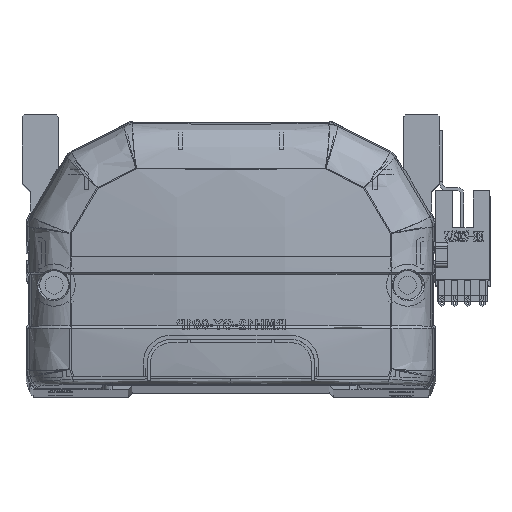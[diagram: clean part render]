
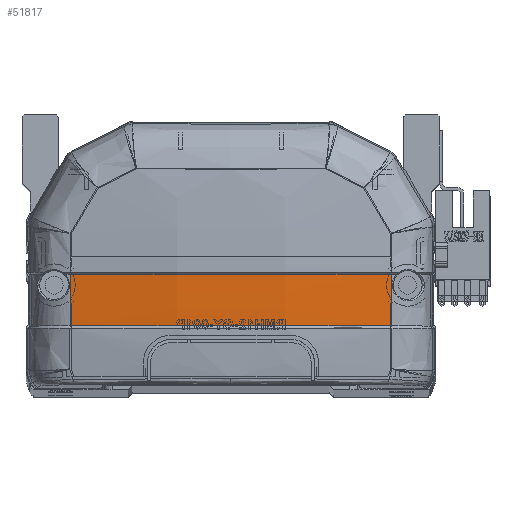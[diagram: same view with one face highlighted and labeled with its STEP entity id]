
A CAD part, top view. The second image highlights one B-rep face of the part: STEP entity #51817.
In plain terms, the highlighted free-form (B-spline) face has degree [3, 3] with [4, 4] control points.
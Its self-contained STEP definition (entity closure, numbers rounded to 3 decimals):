
#364 = ORIENTED_EDGE ( 'NONE', *, *, #5508, .F. ) ;
#677 = CARTESIAN_POINT ( 'NONE',  ( -39.973, 20.118, -6.142 ) ) ;
#5251 = CARTESIAN_POINT ( 'NONE',  ( -39.966, 24.412, -6.306 ) ) ;
#5508 = EDGE_CURVE ( 'NONE', #21456, #58904, #45954, .T. ) ;
#6280 = CARTESIAN_POINT ( 'NONE',  ( -39.985, 15.83, -5.879 ) ) ;
#7498 = CARTESIAN_POINT ( 'NONE',  ( -26.748, 28.706, -8.432 ) ) ;
#7749 = CARTESIAN_POINT ( 'NONE',  ( -40.461, 15.757, -5.8 ) ) ;
#8327 = CARTESIAN_POINT ( 'NONE',  ( 40.461, 28.832, -6.296 ) ) ;
#8464 = CARTESIAN_POINT ( 'NONE',  ( 39.973, 20.12, -6.142 ) ) ;
#11665 = CARTESIAN_POINT ( 'NONE',  ( 13.375, 28.707, -9.468 ) ) ;
#11698 = CARTESIAN_POINT ( 'NONE',  ( -13.384, 15.83, -8.724 ) ) ;
#13542 = VERTEX_POINT ( 'NONE', #22558 ) ;
#15285 = EDGE_CURVE ( 'NONE', #43025, #13542, #32889, .T. ) ;
#16055 = EDGE_CURVE ( 'NONE', #43025, #58904, #44918, .T. ) ;
#16866 = B_SPLINE_CURVE_WITH_KNOTS ( 'NONE', 3,
 ( #24441, #5251, #677, #57114 ),
 .UNSPECIFIED., .F., .F.,
 ( 4, 4 ),
 ( 0., 1. ),
 .UNSPECIFIED. ) ;
#17332 = CARTESIAN_POINT ( 'NONE',  ( -13.598, 24.342, -10.47 ) ) ;
#17733 = CARTESIAN_POINT ( 'NONE',  ( 13.598, 28.769, -10.535 ) ) ;
#18130 = CARTESIAN_POINT ( 'NONE',  ( -13.598, 15.499, -10.032 ) ) ;
#21417 = ORIENTED_EDGE ( 'NONE', *, *, #26166, .T. ) ;
#21454 = CARTESIAN_POINT ( 'NONE',  ( 39.963, 28.706, -6.372 ) ) ;
#21456 = VERTEX_POINT ( 'NONE', #56653 ) ;
#22459 = CARTESIAN_POINT ( 'NONE',  ( 39.963, 28.706, -6.372 ) ) ;
#22522 = CARTESIAN_POINT ( 'NONE',  ( 13.598, 15.499, -10.032 ) ) ;
#22558 = CARTESIAN_POINT ( 'NONE',  ( -39.985, 15.83, -5.879 ) ) ;
#22739 = CARTESIAN_POINT ( 'NONE',  ( 13.598, 19.918, -10.302 ) ) ;
#24441 = CARTESIAN_POINT ( 'NONE',  ( -39.963, 28.706, -6.372 ) ) ;
#25870 = CARTESIAN_POINT ( 'NONE',  ( 39.985, 15.83, -5.879 ) ) ;
#26069 = CARTESIAN_POINT ( 'NONE',  ( -36.679, 15.83, -6.395 ) ) ;
#26166 = EDGE_CURVE ( 'NONE', #21456, #13542, #16866, .T. ) ;
#27086 = FACE_OUTER_BOUND ( 'NONE', #31641, .T. ) ;
#30994 = CARTESIAN_POINT ( 'NONE',  ( 26.749, 28.706, -8.432 ) ) ;
#31199 = CARTESIAN_POINT ( 'NONE',  ( -13.373, 28.707, -9.468 ) ) ;
#31641 = EDGE_LOOP ( 'NONE', ( #57822, #364, #21417, #44639 ) ) ;
#31864 = CARTESIAN_POINT ( 'NONE',  ( -40.461, 28.832, -6.296 ) ) ;
#32252 = CARTESIAN_POINT ( 'NONE',  ( -13.598, 28.769, -10.535 ) ) ;
#32889 = B_SPLINE_CURVE_WITH_KNOTS ( 'NONE', 3,
 ( #25870, #34754, #39730, #59166, #11698, #49377, #54608, #44953, #26069, #6280 ),
 .UNSPECIFIED., .F., .F.,
 ( 4, 2, 2, 2, 4 ),
 ( 0., 0.04, 0.06, 0.07, 0.08 ),
 .UNSPECIFIED. ) ;
#34754 = CARTESIAN_POINT ( 'NONE',  ( 26.761, 15.83, -7.945 ) ) ;
#39730 = CARTESIAN_POINT ( 'NONE',  ( 13.38, 15.83, -8.984 ) ) ;
#40317 = CARTESIAN_POINT ( 'NONE',  ( -39.963, 28.706, -6.372 ) ) ;
#40981 = CARTESIAN_POINT ( 'NONE',  ( -13.598, 19.918, -10.302 ) ) ;
#43025 = VERTEX_POINT ( 'NONE', #51226 ) ;
#44639 = ORIENTED_EDGE ( 'NONE', *, *, #15285, .F. ) ;
#44918 = B_SPLINE_CURVE_WITH_KNOTS ( 'NONE', 3,
 ( #55770, #8464, #55568, #22459 ),
 .UNSPECIFIED., .F., .F.,
 ( 4, 4 ),
 ( 0., 1. ),
 .UNSPECIFIED. ) ;
#44953 = CARTESIAN_POINT ( 'NONE',  ( -33.365, 15.83, -6.848 ) ) ;
#45954 = B_SPLINE_CURVE_WITH_KNOTS ( 'NONE', 3,
 ( #40317, #7498, #31199, #11665, #30994, #21454 ),
 .UNSPECIFIED., .F., .F.,
 ( 4, 2, 4 ),
 ( 0., 0.5, 1. ),
 .UNSPECIFIED. ) ;
#46200 = CARTESIAN_POINT ( 'NONE',  ( 40.461, 15.757, -5.8 ) ) ;
#49377 = CARTESIAN_POINT ( 'NONE',  ( -23.389, 15.83, -7.947 ) ) ;
#49478 = CARTESIAN_POINT ( 'NONE',  ( 39.963, 28.706, -6.372 ) ) ;
#51226 = CARTESIAN_POINT ( 'NONE',  ( 39.985, 15.83, -5.879 ) ) ;
#51251 = CARTESIAN_POINT ( 'NONE',  ( 40.461, 24.47, -6.231 ) ) ;
#51817 = ADVANCED_FACE ( 'NONE', ( #27086 ), #57013, .F. ) ;
#54608 = CARTESIAN_POINT ( 'NONE',  ( -26.721, 15.83, -7.624 ) ) ;
#55226 = CARTESIAN_POINT ( 'NONE',  ( 13.598, 24.342, -10.47 ) ) ;
#55568 = CARTESIAN_POINT ( 'NONE',  ( 39.966, 24.413, -6.306 ) ) ;
#55624 = CARTESIAN_POINT ( 'NONE',  ( 40.461, 20.111, -6.066 ) ) ;
#55770 = CARTESIAN_POINT ( 'NONE',  ( 39.985, 15.83, -5.879 ) ) ;
#55837 = CARTESIAN_POINT ( 'NONE',  ( -40.461, 20.111, -6.066 ) ) ;
#56653 = CARTESIAN_POINT ( 'NONE',  ( -39.963, 28.706, -6.372 ) ) ;
#57013 =( BOUNDED_SURFACE ( )  B_SPLINE_SURFACE ( 3, 3, ( 
 ( #46200, #55624, #51251, #8327 ),
 ( #22522, #22739, #55226, #17733 ),
 ( #18130, #40981, #17332, #32252 ),
 ( #7749, #55837, #60401, #31864 ) ),
 .UNSPECIFIED., .F., .F., .F. ) 
 B_SPLINE_SURFACE_WITH_KNOTS ( ( 4, 4 ),
 ( 4, 4 ),
 ( 0., 1. ),
 ( 0., 1. ),
 .UNSPECIFIED. ) 
 GEOMETRIC_REPRESENTATION_ITEM ( )  RATIONAL_B_SPLINE_SURFACE ( (
 ( 1., 1., 1., 1.),
 ( 0.992, 0.992, 0.992, 0.992),
 ( 0.992, 0.992, 0.992, 0.992),
 ( 1., 1., 1., 1.) ) ) 
 REPRESENTATION_ITEM ( '' )  SURFACE ( )  );
#57114 = CARTESIAN_POINT ( 'NONE',  ( -39.985, 15.83, -5.879 ) ) ;
#57822 = ORIENTED_EDGE ( 'NONE', *, *, #16055, .T. ) ;
#58904 = VERTEX_POINT ( 'NONE', #49478 ) ;
#59166 = CARTESIAN_POINT ( 'NONE',  ( -6.692, 15.83, -8.984 ) ) ;
#60401 = CARTESIAN_POINT ( 'NONE',  ( -40.461, 24.47, -6.231 ) ) ;
